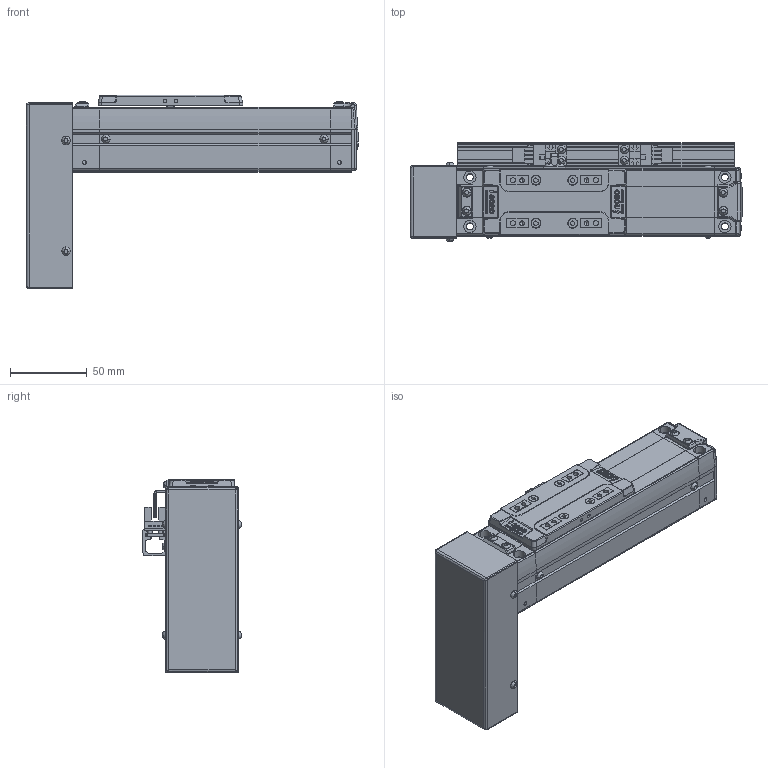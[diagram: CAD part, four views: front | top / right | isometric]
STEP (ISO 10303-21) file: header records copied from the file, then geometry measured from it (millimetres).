
FILE_DESCRIPTION(('STEP AP214'),'1');
FILE_NAME('Z:/Web/3D/SAN45/2013.ver/STP/SAN45-50PB+3SL.stp','2013-05-15T00:04:44',(' '),(' '),'Spatial InterOp 3D',' ',' ');
FILE_SCHEMA(('automotive_design'));
Length unit declared in the file: millimetre
Products named in the file (42): BODY-SAN45; REAR-SAN45; RRCV-SAN45; BHCS M3 x 6L; BHCS M3 X 6L; FRONT-SAN45; SHAFT; RN8 x 0.75; SSFX-SAN45; SLIDE-SAN45; SLCV-IM45; FHCS M3 x 6L; BTCV-SAN45; SRL-16x17-380L; EE-SX674; SBK-SX674-352; SDG-SA45; SCREW M3 x 5L
Bounding box: 216.15 x 64.06 x 126 mm (x, y, z)
Volume: 529155.7 mm3; surface area: 128940.7 mm2
Topology: 42 solids, 42 shells, 2194 faces, 5673 edges, 3644 vertices
Faces by surface type: plane 1199, cylinder 701, cone 132, sphere 80, bspline 44, torus 32, extrusion 6
Entity records: 89205 total; most frequent: CARTESIAN_POINT 16135, DIRECTION 11822, ORIENTED_EDGE 11226, EDGE_CURVE 5613, AXIS2_PLACEMENT_3D 4144, VERTEX_POINT 3644, VECTOR 3534, LINE 3528
